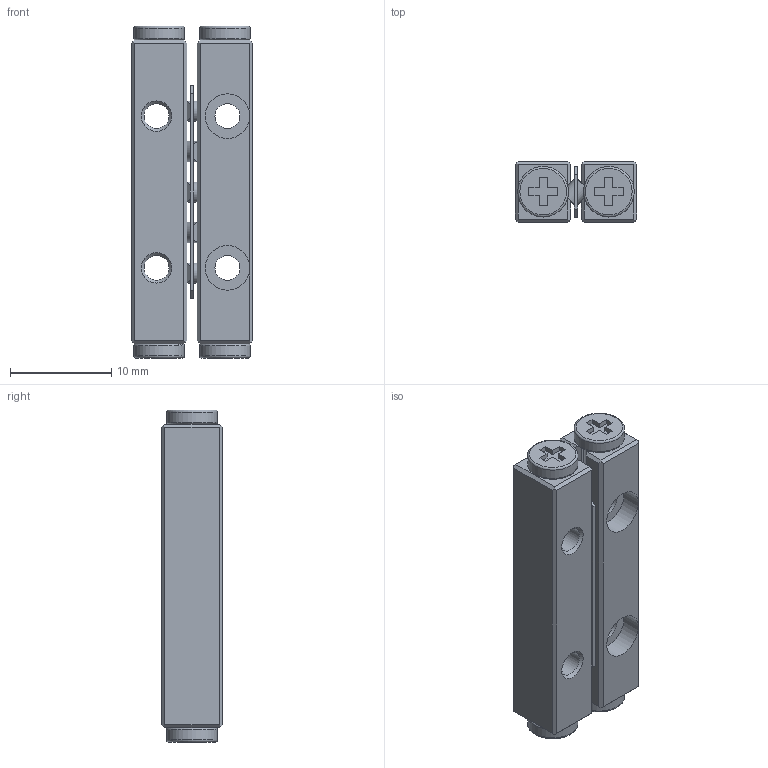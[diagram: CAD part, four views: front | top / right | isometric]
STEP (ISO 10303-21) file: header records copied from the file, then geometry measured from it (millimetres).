
FILE_DESCRIPTION(/* description */ ('Unknown'),/* implementation_level */ '2;1');
FILE_NAME(/* name */ 'VR2-30x5Z',/* time_stamp */ '2025-06-12T09:12:37+08:00',/* author */ ('Unknown'),/* organization */ ('Unknown'),/* preprocessor_version */ 'ST-DEVELOPER v18.102',/* originating_system */ 'Solid Edge',/* authorisation */ 'Unknown');
FILE_SCHEMA (('AUTOMOTIVE_DESIGN {1 0 10303 214 3 1 1}'));
Length unit declared in the file: millimetre
Products named in the file (3): VR2-30x5Z; VR2-30x5Z_rail; VR2-30x5Z_roller
Assembly tree (3 placements, depth 2):
  VR2-30x5Z
    VR2-30x5Z_rail  x2
    VR2-30x5Z_roller
Bounding box: 12 x 6 x 32.8 mm (x, y, z)
Volume: 1860.1 mm3; surface area: 2135.4 mm2
Topology: 3 solids, 3 shells, 219 faces, 614 edges, 400 vertices
Faces by surface type: plane 166, cylinder 41, torus 8, cone 4
Full cylindrical faces by diameter (mm): 2 x5, 2.459 x4, 4.4 x4, 5 x4
Entity records: 5212 total; most frequent: CARTESIAN_POINT 807, DIRECTION 786, ORIENTED_EDGE 780, EDGE_CURVE 390, LINE 296, VECTOR 296, VERTEX_POINT 266, AXIS2_PLACEMENT_3D 245
